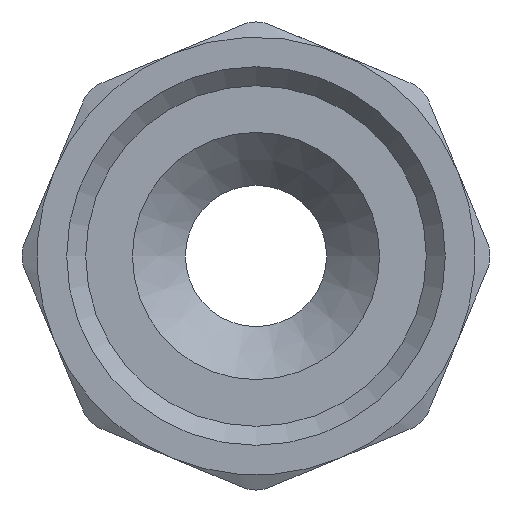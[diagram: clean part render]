
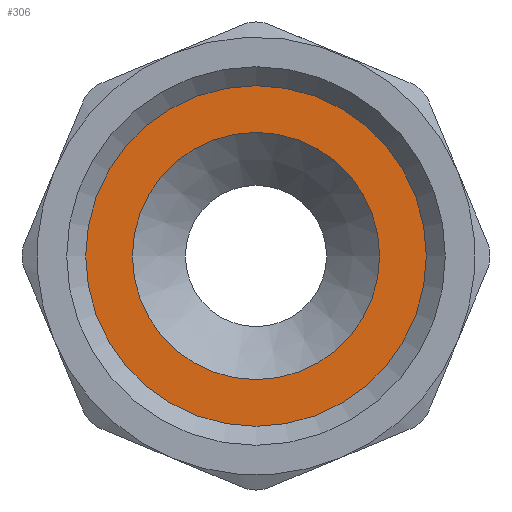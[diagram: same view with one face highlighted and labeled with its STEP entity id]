
A CAD part, front view. The second image highlights one B-rep face of the part: STEP entity #306.
In plain terms, the highlighted planar face has unit normal (0, -1, 0).
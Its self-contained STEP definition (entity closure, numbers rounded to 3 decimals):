
#306=ADVANCED_FACE('',(#1028,#1030),#1032,.F.);
#1028=FACE_BOUND('',#1029,.T.);
#1029=EDGE_LOOP('',(#1326));
#1030=FACE_BOUND('',#1031,.T.);
#1031=EDGE_LOOP('',(#1327));
#1032=PLANE('',#1033);
#1033=AXIS2_PLACEMENT_3D('',#1034,#1035,#1036);
#1034=CARTESIAN_POINT('',(0.,0.,0.));
#1035=DIRECTION('',(0.,1.,0.));
#1036=DIRECTION('',(-1.,0.,0.));
#1326=ORIENTED_EDGE('',*,*,#1465,.F.);
#1327=ORIENTED_EDGE('',*,*,#1466,.T.);
#1465=EDGE_CURVE('',#1703,#1703,#1704,.T.);
#1466=EDGE_CURVE('',#1705,#1705,#1706,.T.);
#1703=VERTEX_POINT('',#3250);
#1704=CIRCLE('',#3251,12.1);
#1705=VERTEX_POINT('',#3255);
#1706=CIRCLE('',#3256,8.75);
#3250=CARTESIAN_POINT('',(-12.1,0.,0.));
#3251=AXIS2_PLACEMENT_3D('',#3252,#3253,#3254);
#3252=CARTESIAN_POINT('',(0.,0.,0.));
#3253=DIRECTION('',(0.,1.,0.));
#3254=DIRECTION('',(-1.,0.,0.));
#3255=CARTESIAN_POINT('',(-8.75,0.,0.));
#3256=AXIS2_PLACEMENT_3D('',#3257,#3258,#3259);
#3257=CARTESIAN_POINT('',(0.,0.,0.));
#3258=DIRECTION('',(0.,1.,0.));
#3259=DIRECTION('',(-1.,0.,0.));
